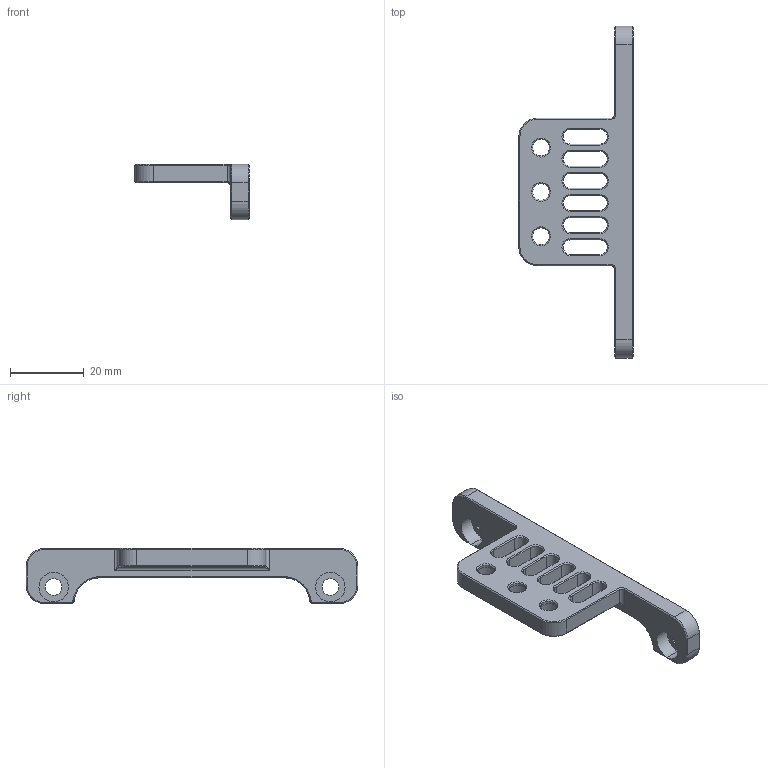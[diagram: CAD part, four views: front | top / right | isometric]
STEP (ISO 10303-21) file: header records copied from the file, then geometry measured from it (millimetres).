
FILE_DESCRIPTION (( 'STEP AP203' ), '1' );
FILE_NAME ('樓詢啣.STEP', '2026-10-10T02:25:04', ( '' ), ( '' ), 'SwSTEP 2.0', 'SolidWorks 2024', '' );
FILE_SCHEMA (( 'CONFIG_CONTROL_DESIGN' ));
Length unit declared in the file: millimetre
Products named in the file (1): 加高板
Bounding box: 31 x 90 x 15 mm (x, y, z)
Volume: 7194.2 mm3; surface area: 5677.9 mm2
Topology: 1 solids, 1 shells, 199 faces, 462 edges, 268 vertices
Faces by surface type: cone 74, plane 72, cylinder 51, bspline 2
Entity records: 5915 total; most frequent: CARTESIAN_POINT 1196, DIRECTION 1028, ORIENTED_EDGE 920, EDGE_CURVE 460, AXIS2_PLACEMENT_3D 376, VECTOR 276, LINE 276, VERTEX_POINT 268
